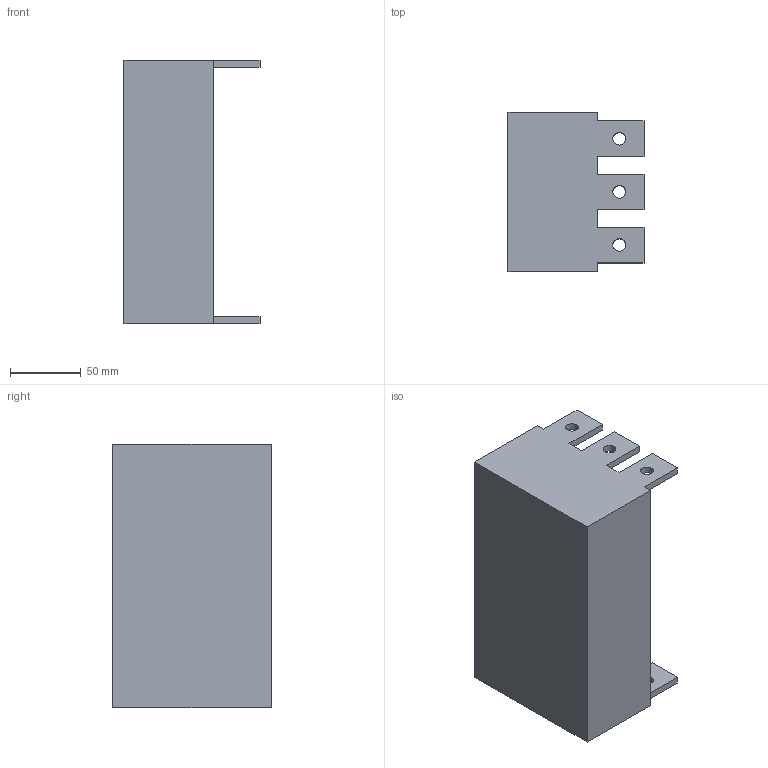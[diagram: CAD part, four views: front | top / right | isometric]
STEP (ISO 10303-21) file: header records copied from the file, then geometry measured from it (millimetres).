
FILE_DESCRIPTION(('STEP AP214'), '1');
FILE_NAME('4000024, 4000026', '', ('UNSPECIFIED'), ('UNSPECIFIED'), 'ASCON STEP Converter 1.3', 'ASCON Math Kernel', '');
FILE_SCHEMA(('AUTOMOTIVE_DESIGN { 1 0 10303 214 3 1 1}'));
Length unit declared in the file: millimetre
Bounding box: 96 x 112 x 186 mm (x, y, z)
Volume: 1335257.5 mm3; surface area: 91176.8 mm2
Topology: 1 solids, 1 shells, 36 faces, 102 edges, 68 vertices
Faces by surface type: plane 30, cylinder 6
Full cylindrical faces by diameter (mm): 9 x6
Entity records: 1479 total; most frequent: CARTESIAN_POINT 201, ORIENTED_EDGE 192, DIRECTION 182, EDGE_CURVE 96, LINE 84, VECTOR 84, VERTEX_POINT 68, EDGE_LOOP 54
